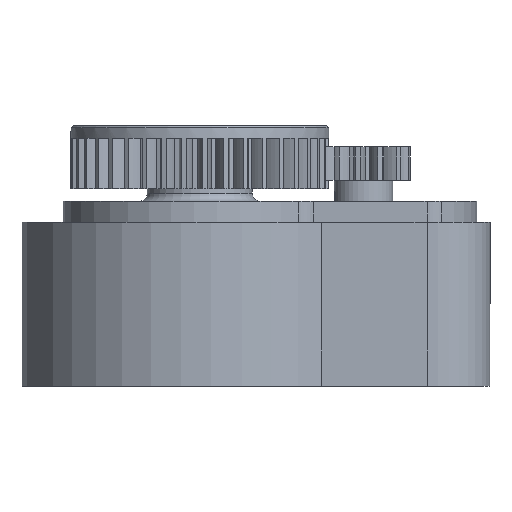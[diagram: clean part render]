
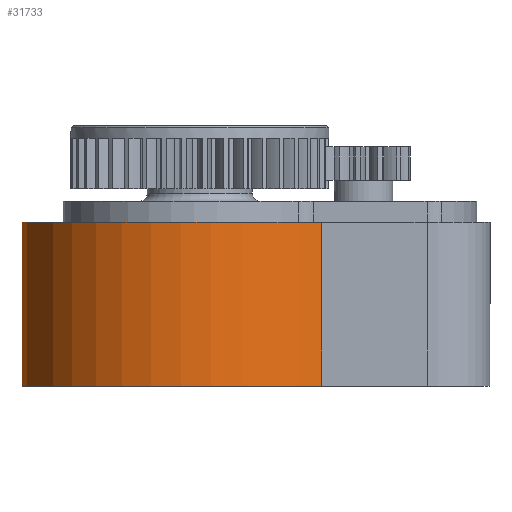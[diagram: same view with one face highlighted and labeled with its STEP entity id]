
A CAD part, left-side view. The second image highlights one B-rep face of the part: STEP entity #31733.
In plain terms, the highlighted cylindrical face has radius 42.5 mm (diameter 85 mm), a partial arc.
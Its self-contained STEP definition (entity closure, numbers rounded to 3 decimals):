
#4123=CIRCLE('',#37042,42.5);
#4143=CIRCLE('',#37076,42.5);
#5120=CYLINDRICAL_SURFACE('',#37075,42.5);
#7098=FACE_OUTER_BOUND('',#9211,.T.);
#9211=EDGE_LOOP('',(#29285,#29286,#29287,#29288));
#10837=LINE('',#65691,#12265);
#10838=LINE('',#65695,#12266);
#12265=VECTOR('',#48568,10.);
#12266=VECTOR('',#48573,10.);
#15094=VERTEX_POINT('',#65607);
#15095=VERTEX_POINT('',#65609);
#15121=VERTEX_POINT('',#65687);
#15123=VERTEX_POINT('',#65693);
#19814=EDGE_CURVE('',#15094,#15095,#4123,.T.);
#19855=EDGE_CURVE('',#15121,#15095,#10837,.T.);
#19856=EDGE_CURVE('',#15123,#15121,#4143,.T.);
#19857=EDGE_CURVE('',#15123,#15094,#10838,.T.);
#29285=ORIENTED_EDGE('',*,*,#19856,.T.);
#29286=ORIENTED_EDGE('',*,*,#19855,.T.);
#29287=ORIENTED_EDGE('',*,*,#19814,.F.);
#29288=ORIENTED_EDGE('',*,*,#19857,.F.);
#31733=ADVANCED_FACE('',(#7098),#5120,.T.);
#37042=AXIS2_PLACEMENT_3D('',#65610,#48481,#48482);
#37075=AXIS2_PLACEMENT_3D('',#65692,#48569,#48570);
#37076=AXIS2_PLACEMENT_3D('',#65694,#48571,#48572);
#48481=DIRECTION('center_axis',(0.,0.,1.));
#48482=DIRECTION('ref_axis',(-0.729,0.684,0.));
#48568=DIRECTION('',(0.,0.,1.));
#48569=DIRECTION('center_axis',(0.,0.,1.));
#48570=DIRECTION('ref_axis',(0.,-1.,0.));
#48571=DIRECTION('center_axis',(0.,0.,1.));
#48572=DIRECTION('ref_axis',(-0.729,0.684,0.));
#48573=DIRECTION('',(0.,0.,1.));
#65607=CARTESIAN_POINT('',(-31.,12.317,39.));
#65609=CARTESIAN_POINT('',(31.,12.317,39.));
#65610=CARTESIAN_POINT('Origin',(0.,-16.757,
39.));
#65687=CARTESIAN_POINT('',(31.,12.317,0.));
#65691=CARTESIAN_POINT('',(31.,12.317,0.));
#65692=CARTESIAN_POINT('Origin',(0.,-16.757,
0.));
#65693=CARTESIAN_POINT('',(-31.,12.317,0.));
#65694=CARTESIAN_POINT('Origin',(0.,-16.757,
0.));
#65695=CARTESIAN_POINT('',(-31.,12.317,0.));
